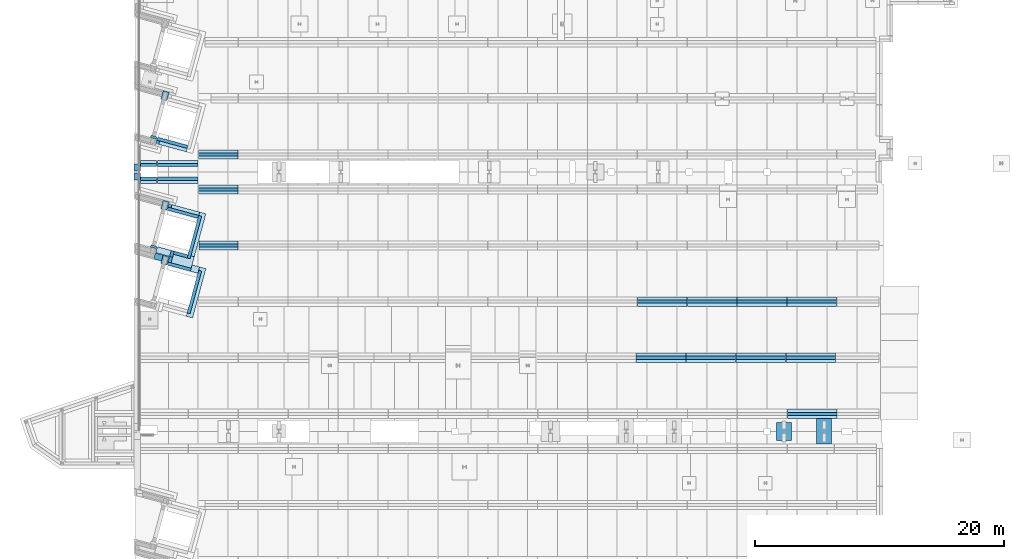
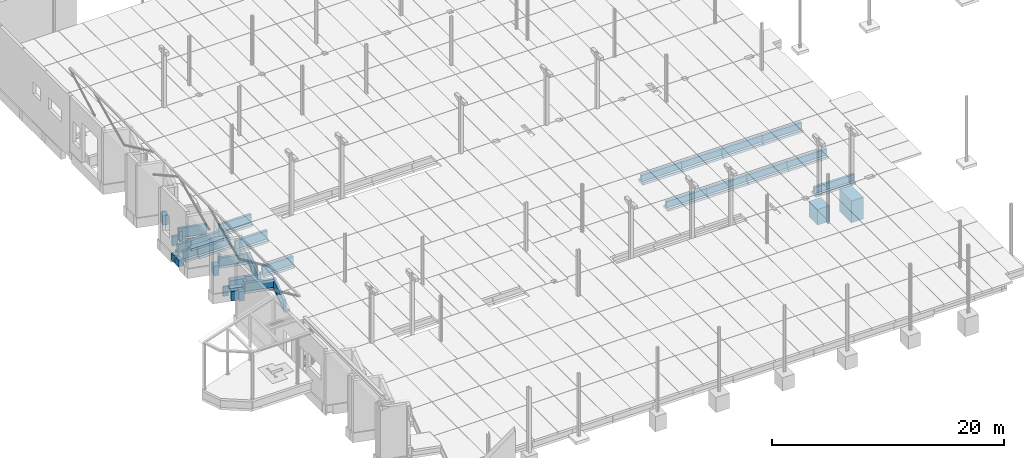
# One storey, part 5 of 59: 59 footings.
"""IFC2X3 building model written with IfcOpenShell, lengths in metres."""

from ifc_helpers import new_model, entity, si_unit, converted_unit, derived_unit, frame, frame_2d, origin, origin_with_axes, place, context, subcontext, project, spatial, polyline, rectangle, extrude, clip, bounded_halfspace, material, element, save


model = new_model("IFC2X3")

# Units and contexts
model_context = context("Model", 3, precision=1e-05, world=origin())
body_context = subcontext(model_context, "Body", "Model", "MODEL_VIEW")
ifc_project = project(units=[si_unit("LENGTHUNIT", "METRE"), si_unit("AREAUNIT", "SQUARE_METRE"), si_unit("VOLUMEUNIT", "CUBIC_METRE"), si_unit("MASSUNIT", "GRAM", prefix="KILO"), converted_unit("PLANEANGLEUNIT", "DEGREE", entity("IfcPlaneAngleMeasure", 0.0174532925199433), si_unit("PLANEANGLEUNIT", "RADIAN"), dimensions=[0, 0, 0, 0, 0, 0, 0]), derived_unit("THERMALTRANSMITTANCEUNIT", [(si_unit("POWERUNIT", "WATT"), 1), (si_unit("THERMODYNAMICTEMPERATUREUNIT", "KELVIN"), -1), (si_unit("LENGTHUNIT", "METRE"), -2)]), derived_unit("VOLUMETRICFLOWRATEUNIT", [(si_unit("LENGTHUNIT", "METRE"), 3), (converted_unit("TIMEUNIT", "hour", entity("IfcTimeMeasure", 3600.0), si_unit("TIMEUNIT", "SECOND"), dimensions=[0, 0, 1, 0, 0, 0, 0]), -1), (si_unit("LENGTHUNIT", "METRE"), -1)])], contexts=[model_context])

# Site, building, storey
site_placement = place(None, origin())
site = spatial("IfcSite", under=ifc_project, at=site_placement, Name="TWP_Speiseverteilzentrum SBW VZ II", CompositionType="ELEMENT")
building_placement = place(site_placement, origin())
building = spatial("IfcBuilding", under=site, at=building_placement, Name="Speiseverteilzentrum SBW VZ II", CompositionType="ELEMENT")
storey_placement = place(building_placement, frame((0.0, 0.0, 1.7307)))
storey = spatial("IfcBuildingStorey", under=building, at=storey_placement, Name="EG_Produktion_FFB", CompositionType="ELEMENT", Elevation=1.7307)

# Footings
ifc_material_1 = material(Name="Stahlbetonfertigteil")
footing_1_placement = place(storey_placement, frame((11.05, 51.18, -1.5), z_axis=(0.0, 0.0, 1.0), x_axis=(-1.0, 0.0, 0.0)))
element("IfcFooting", 1, at=footing_1_placement, inside=storey, material=ifc_material_1, Name="Stahlbetonfertigteilfundament", PredefinedType="STRIP_FOOTING", context=body_context, shape_type="SweptSolid", body=[
    extrude(rectangle(XDim=0.5, YDim=0.25, at=frame_2d((0.25, 0.125), x_axis=(1.0, 0.0))), frame((0.0, 0.0, 0.0), z_axis=(1.0, 0.0, 0.0), x_axis=(0.0, 1.0, 0.0)), (0.0, 0.0, 1.0), 1.29000000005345),
])
ifc_material_2 = material(Name="Stahlbetonfertigteil")
footing_2_placement = place(storey_placement, frame((11.05, 51.18, -1.25), z_axis=(0.0, 0.0, 1.0), x_axis=(-1.0, 0.0, 0.0)))
element("IfcFooting", 2, at=footing_2_placement, inside=storey, material=ifc_material_2, Name="Stahlbetonfertigteilfundament", PredefinedType="STRIP_FOOTING", context=body_context, shape_type="SweptSolid", body=[
    extrude(rectangle(XDim=0.25, YDim=0.78, at=frame_2d((0.125, 0.39), x_axis=(1.0, 0.0))), frame((0.0, 0.0, 0.0), z_axis=(1.0, 0.0, 0.0), x_axis=(0.0, 1.0, 0.0)), (0.0, 0.0, 1.0), 1.29000000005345),
])
ifc_material_3 = material(Name="Stahlbetonfertigteil")
footing_3_placement = place(storey_placement, frame((9.75999999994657, 52.02, -1.25)))
element("IfcFooting", 3, at=footing_3_placement, inside=storey, material=ifc_material_3, Name="Stahlbetonfertigteilfundament", PredefinedType="STRIP_FOOTING", context=body_context, shape_type="SweptSolid", body=[
    extrude(rectangle(XDim=0.25, YDim=0.78, at=frame_2d((0.125, 0.39), x_axis=(1.0, 0.0))), frame((0.0, 0.0, 0.0), z_axis=(1.0, 0.0, 0.0), x_axis=(0.0, 1.0, 0.0)), (0.0, 0.0, 1.0), 1.29000000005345),
])
ifc_material_4 = material(Name="Stahlbetonfertigteil")
footing_4_placement = place(storey_placement, frame((9.75999999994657, 52.02, -1.5)))
element("IfcFooting", 4, at=footing_4_placement, inside=storey, material=ifc_material_4, Name="Stahlbetonfertigteilfundament", PredefinedType="STRIP_FOOTING", context=body_context, shape_type="SweptSolid", body=[
    extrude(rectangle(XDim=0.5, YDim=0.25, at=frame_2d((0.25, 0.125), x_axis=(1.0, 0.0))), frame((0.0, 0.0, 0.0), z_axis=(1.0, 0.0, 0.0), x_axis=(0.0, 1.0, 0.0)), (0.0, 0.0, 1.0), 1.29000000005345),
])
ifc_material_5 = material(Name="Stahlbetonfertigteil")
footing_5_placement = place(storey_placement, frame((61.6199999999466, 32.0750000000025, -1.125)))
element("IfcFooting", 5, at=footing_5_placement, inside=storey, material=ifc_material_5, Name="Stahlbetonfertigteilfundament", PredefinedType="STRIP_FOOTING", context=body_context, shape_type="SweptSolid", body=[
    extrude(rectangle(XDim=0.25, YDim=0.655, at=frame_2d((0.125, 0.3275), x_axis=(1.0, 0.0))), frame((0.0, 0.0, 0.0), z_axis=(1.0, 0.0, 0.0), x_axis=(0.0, 1.0, 0.0)), (0.0, 0.0, 1.0), 3.98),
])
ifc_material_6 = material(Name="Stahlbetonfertigteil")
footing_6_placement = place(storey_placement, frame((49.5999999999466, 41.0750000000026, -1.1)))
element("IfcFooting", 6, at=footing_6_placement, inside=storey, material=ifc_material_6, Name="Stahlbetonfertigteilfundament", PredefinedType="STRIP_FOOTING", context=body_context, shape_type="SweptSolid", body=[
    extrude(rectangle(XDim=0.25, YDim=0.63, at=frame_2d((0.125, 0.315), x_axis=(1.0, 0.0))), frame((0.0, 0.0, 0.0), z_axis=(1.0, 0.0, 0.0), x_axis=(0.0, 1.0, 0.0)), (0.0, 0.0, 1.0), 3.98),
])
ifc_material_7 = material(Name="Stahlbetonfertigteil")
footing_7_placement = place(storey_placement, frame((49.5999999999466, 40.8250000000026, -1.35)))
element("IfcFooting", 7, at=footing_7_placement, inside=storey, material=ifc_material_7, Name="Stahlbetonfertigteilfundament", PredefinedType="STRIP_FOOTING", context=body_context, shape_type="SweptSolid", body=[
    extrude(rectangle(XDim=0.75, YDim=0.25, at=frame_2d((0.375, 0.125), x_axis=(1.0, 0.0))), frame((0.0, 0.0, 0.0), z_axis=(1.0, 0.0, 0.0), x_axis=(0.0, 1.0, 0.0)), (0.0, 0.0, 1.0), 3.98),
])
ifc_material_8 = material(Name="Stahlbetonfertigteil")
footing_8_placement = place(storey_placement, frame((61.5999999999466, 41.0750000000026, -1.1)))
element("IfcFooting", 8, at=footing_8_placement, inside=storey, material=ifc_material_8, Name="Stahlbetonfertigteilfundament", PredefinedType="STRIP_FOOTING", context=body_context, shape_type="SweptSolid", body=[
    extrude(rectangle(XDim=0.25, YDim=0.63, at=frame_2d((0.125, 0.315), x_axis=(1.0, 0.0))), frame((0.0, 0.0, 0.0), z_axis=(1.0, 0.0, 0.0), x_axis=(0.0, 1.0, 0.0)), (0.0, 0.0, 1.0), 3.98),
])
ifc_material_9 = material(Name="Stahlbetonfertigteil")
footing_9_placement = place(storey_placement, frame((53.5999999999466, 41.0750000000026, -1.1)))
element("IfcFooting", 9, at=footing_9_placement, inside=storey, material=ifc_material_9, Name="Stahlbetonfertigteilfundament", PredefinedType="STRIP_FOOTING", context=body_context, shape_type="SweptSolid", body=[
    extrude(rectangle(XDim=0.25, YDim=0.63, at=frame_2d((0.125, 0.315), x_axis=(1.0, 0.0))), frame((0.0, 0.0, 0.0), z_axis=(1.0, 0.0, 0.0), x_axis=(0.0, 1.0, 0.0)), (0.0, 0.0, 1.0), 3.98),
])
ifc_material_10 = material(Name="Stahlbetonfertigteil")
footing_10_placement = place(storey_placement, frame((57.5999999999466, 41.0750000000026, -1.1)))
element("IfcFooting", 10, at=footing_10_placement, inside=storey, material=ifc_material_10, Name="Stahlbetonfertigteilfundament", PredefinedType="STRIP_FOOTING", context=body_context, shape_type="SweptSolid", body=[
    extrude(rectangle(XDim=0.25, YDim=0.63, at=frame_2d((0.125, 0.315), x_axis=(1.0, 0.0))), frame((0.0, 0.0, 0.0), z_axis=(1.0, 0.0, 0.0), x_axis=(0.0, 1.0, 0.0)), (0.0, 0.0, 1.0), 3.98),
])
ifc_material_11 = material(Name="Stahlbetonfertigteil")
footing_11_placement = place(storey_placement, frame((57.5999999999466, 40.8250000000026, -1.35)))
element("IfcFooting", 11, at=footing_11_placement, inside=storey, material=ifc_material_11, Name="Stahlbetonfertigteilfundament", PredefinedType="STRIP_FOOTING", context=body_context, shape_type="SweptSolid", body=[
    extrude(rectangle(XDim=0.75, YDim=0.25, at=frame_2d((0.375, 0.125), x_axis=(1.0, 0.0))), frame((0.0, 0.0, 0.0), z_axis=(1.0, 0.0, 0.0), x_axis=(0.0, 1.0, 0.0)), (0.0, 0.0, 1.0), 3.98),
])
ifc_material_12 = material(Name="Stahlbetonfertigteil")
footing_12_placement = place(storey_placement, frame((53.5999999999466, 40.8250000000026, -1.35)))
element("IfcFooting", 12, at=footing_12_placement, inside=storey, material=ifc_material_12, Name="Stahlbetonfertigteilfundament", PredefinedType="STRIP_FOOTING", context=body_context, shape_type="SweptSolid", body=[
    extrude(rectangle(XDim=0.75, YDim=0.25, at=frame_2d((0.375, 0.125), x_axis=(1.0, 0.0))), frame((0.0, 0.0, 0.0), z_axis=(1.0, 0.0, 0.0), x_axis=(0.0, 1.0, 0.0)), (0.0, 0.0, 1.0), 3.98),
])
ifc_material_13 = material(Name="Stahlbetonfertigteil")
footing_13_placement = place(storey_placement, frame((61.5999999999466, 40.8250000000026, -1.35)))
element("IfcFooting", 13, at=footing_13_placement, inside=storey, material=ifc_material_13, Name="Stahlbetonfertigteilfundament", PredefinedType="STRIP_FOOTING", context=body_context, shape_type="SweptSolid", body=[
    extrude(rectangle(XDim=0.75, YDim=0.25, at=frame_2d((0.375, 0.125), x_axis=(1.0, 0.0))), frame((0.0, 0.0, 0.0), z_axis=(1.0, 0.0, 0.0), x_axis=(0.0, 1.0, 0.0)), (0.0, 0.0, 1.0), 3.98),
])
ifc_material_14 = material(Name="Stahlbeton")
footing_14_placement = place(storey_placement, frame((60.7600000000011, 30.0751031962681, -2.92)))
element("IfcFooting", 14, at=footing_14_placement, inside=storey, material=ifc_material_14, Name="Stb.-Einzelfundament", ObjectType="COLUMN_FOUNDATION", PredefinedType="USERDEFINED", context=body_context, shape_type="SweptSolid", body=[
    extrude(rectangle(XDim=1.2, YDim=1.45, at=frame_2d((0.6, 0.725), x_axis=(1.0, 0.0))), origin_with_axes(), (0.0, 0.0, 1.0), 1.65),
])
ifc_material_15 = material(Name="Stahlbetonfertigteil")
footing_15_placement = place(storey_placement, frame((61.6199999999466, 31.8250000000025, -1.375)))
element("IfcFooting", 15, at=footing_15_placement, inside=storey, material=ifc_material_15, Name="Stahlbetonfertigteilfundament", PredefinedType="STRIP_FOOTING", context=body_context, shape_type="SweptSolid", body=[
    extrude(rectangle(XDim=0.75, YDim=0.25, at=frame_2d((0.375, 0.125), x_axis=(1.0, 0.0))), frame((0.0, 0.0, 0.0), z_axis=(1.0, 0.0, 0.0), x_axis=(0.0, 1.0, 0.0)), (0.0, 0.0, 1.0), 3.98),
])
ifc_material_16 = material(Name="Stahlbeton")
footing_16_placement = place(storey_placement, frame((63.9750000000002, 29.7751031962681, -3.62)))
element("IfcFooting", 16, at=footing_16_placement, inside=storey, material=ifc_material_16, Name="Stb.-Einzelfundament", ObjectType="COLUMN_FOUNDATION", PredefinedType="USERDEFINED", context=body_context, shape_type="Clipping", body=[
    clip(extrude(rectangle(XDim=1.2, YDim=2.05, at=frame_2d((0.6, 1.025), x_axis=(1.0, 0.0))), origin_with_axes(), (0.0, 0.0, 1.0), 2.3), bounded_halfspace(frame((0.6, 2.04994840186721, 2.245), z_axis=(-4.736951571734e-17, 5.5082825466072e-13, -1.0), x_axis=(0.0, -1.0, -1.10165650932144e-12)), True, origin_with_axes(), polyline([(0.0, 2.05), (0.0, 2.04989680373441), (1.2, 2.04989680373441), (1.2, 2.05), (0.0, 2.05)]))),
])
ifc_material_17 = material(Name="Stahlbetonfertigteil")
footing_17_placement = place(storey_placement, frame((49.4997040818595, 36.5750000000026, -1.1)))
element("IfcFooting", 17, at=footing_17_placement, inside=storey, material=ifc_material_17, Name="Stahlbetonfertigteilfundament", PredefinedType="STRIP_FOOTING", context=body_context, shape_type="SweptSolid", body=[
    extrude(rectangle(XDim=0.25, YDim=0.63, at=frame_2d((0.125, 0.315), x_axis=(1.0, 0.0))), frame((0.0, 0.0, 0.0), z_axis=(1.0, 0.0, 0.0), x_axis=(0.0, 1.0, 0.0)), (0.0, 0.0, 1.0), 3.98),
])
ifc_material_18 = material(Name="Stahlbetonfertigteil")
footing_18_placement = place(storey_placement, frame((49.4997040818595, 36.3250000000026, -1.35)))
element("IfcFooting", 18, at=footing_18_placement, inside=storey, material=ifc_material_18, Name="Stahlbetonfertigteilfundament", PredefinedType="STRIP_FOOTING", context=body_context, shape_type="SweptSolid", body=[
    extrude(rectangle(XDim=0.75, YDim=0.25, at=frame_2d((0.375, 0.125), x_axis=(1.0, 0.0))), frame((0.0, 0.0, 0.0), z_axis=(1.0, 0.0, 0.0), x_axis=(0.0, 1.0, 0.0)), (0.0, 0.0, 1.0), 3.98),
])
ifc_material_19 = material(Name="Stahlbetonfertigteil")
footing_19_placement = place(storey_placement, frame((53.4997040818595, 36.5750000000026, -1.1)))
element("IfcFooting", 19, at=footing_19_placement, inside=storey, material=ifc_material_19, Name="Stahlbetonfertigteilfundament", PredefinedType="STRIP_FOOTING", context=body_context, shape_type="SweptSolid", body=[
    extrude(rectangle(XDim=0.25, YDim=0.63, at=frame_2d((0.125, 0.315), x_axis=(1.0, 0.0))), frame((0.0, 0.0, 0.0), z_axis=(1.0, 0.0, 0.0), x_axis=(0.0, 1.0, 0.0)), (0.0, 0.0, 1.0), 3.98),
])
ifc_material_20 = material(Name="Stahlbetonfertigteil")
footing_20_placement = place(storey_placement, frame((57.4997040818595, 36.5750000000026, -1.1)))
element("IfcFooting", 20, at=footing_20_placement, inside=storey, material=ifc_material_20, Name="Stahlbetonfertigteilfundament", PredefinedType="STRIP_FOOTING", context=body_context, shape_type="SweptSolid", body=[
    extrude(rectangle(XDim=0.25, YDim=0.63, at=frame_2d((0.125, 0.315), x_axis=(1.0, 0.0))), frame((0.0, 0.0, 0.0), z_axis=(1.0, 0.0, 0.0), x_axis=(0.0, 1.0, 0.0)), (0.0, 0.0, 1.0), 3.98),
])
ifc_material_21 = material(Name="Stahlbetonfertigteil")
footing_21_placement = place(storey_placement, frame((61.4997040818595, 36.5750000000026, -1.1)))
element("IfcFooting", 21, at=footing_21_placement, inside=storey, material=ifc_material_21, Name="Stahlbetonfertigteilfundament", PredefinedType="STRIP_FOOTING", context=body_context, shape_type="SweptSolid", body=[
    extrude(rectangle(XDim=0.25, YDim=0.63, at=frame_2d((0.125, 0.315), x_axis=(1.0, 0.0))), frame((0.0, 0.0, 0.0), z_axis=(1.0, 0.0, 0.0), x_axis=(0.0, 1.0, 0.0)), (0.0, 0.0, 1.0), 3.98),
])
ifc_material_22 = material(Name="Stahlbetonfertigteil")
footing_22_placement = place(storey_placement, frame((61.4997040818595, 36.3250000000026, -1.35)))
element("IfcFooting", 22, at=footing_22_placement, inside=storey, material=ifc_material_22, Name="Stahlbetonfertigteilfundament", PredefinedType="STRIP_FOOTING", context=body_context, shape_type="SweptSolid", body=[
    extrude(rectangle(XDim=0.75, YDim=0.25, at=frame_2d((0.375, 0.125), x_axis=(1.0, 0.0))), frame((0.0, 0.0, 0.0), z_axis=(1.0, 0.0, 0.0), x_axis=(0.0, 1.0, 0.0)), (0.0, 0.0, 1.0), 3.98),
])
ifc_material_23 = material(Name="Stahlbetonfertigteil")
footing_23_placement = place(storey_placement, frame((57.4997040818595, 36.3250000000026, -1.35)))
element("IfcFooting", 23, at=footing_23_placement, inside=storey, material=ifc_material_23, Name="Stahlbetonfertigteilfundament", PredefinedType="STRIP_FOOTING", context=body_context, shape_type="SweptSolid", body=[
    extrude(rectangle(XDim=0.75, YDim=0.25, at=frame_2d((0.375, 0.125), x_axis=(1.0, 0.0))), frame((0.0, 0.0, 0.0), z_axis=(1.0, 0.0, 0.0), x_axis=(0.0, 1.0, 0.0)), (0.0, 0.0, 1.0), 3.98),
])
ifc_material_24 = material(Name="Stahlbetonfertigteil")
footing_24_placement = place(storey_placement, frame((53.4997040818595, 36.3250000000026, -1.35)))
element("IfcFooting", 24, at=footing_24_placement, inside=storey, material=ifc_material_24, Name="Stahlbetonfertigteilfundament", PredefinedType="STRIP_FOOTING", context=body_context, shape_type="SweptSolid", body=[
    extrude(rectangle(XDim=0.75, YDim=0.25, at=frame_2d((0.375, 0.125), x_axis=(1.0, 0.0))), frame((0.0, 0.0, 0.0), z_axis=(1.0, 0.0, 0.0), x_axis=(0.0, 1.0, 0.0)), (0.0, 0.0, 1.0), 3.98),
])
ifc_material_25 = material(Name="Stahlbetonfertigteil")
footing_25_placement = place(storey_placement, frame((14.3799999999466, 51.18, -1.35), z_axis=(0.0, 0.0, 1.0), x_axis=(-1.0, 0.0, 0.0)))
element("IfcFooting", 25, at=footing_25_placement, inside=storey, material=ifc_material_25, Name="Stahlbetonfertigteilfundament", PredefinedType="STRIP_FOOTING", context=body_context, shape_type="SweptSolid", body=[
    extrude(rectangle(XDim=0.25, YDim=0.88, at=frame_2d((0.125, 0.44), x_axis=(1.0, 0.0))), frame((0.0, 0.0, 0.0), z_axis=(1.0, 0.0, 0.0), x_axis=(0.0, 1.0, 0.0)), (0.0, 0.0, 1.0), 3.26000773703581),
])
ifc_material_26 = material(Name="Stahlbetonfertigteil")
footing_26_placement = place(storey_placement, frame((14.3799999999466, 51.18, -1.6), z_axis=(0.0, 0.0, 1.0), x_axis=(-1.0, 0.0, 0.0)))
element("IfcFooting", 26, at=footing_26_placement, inside=storey, material=ifc_material_26, Name="Stahlbetonfertigteilfundament", PredefinedType="STRIP_FOOTING", context=body_context, shape_type="SweptSolid", body=[
    extrude(rectangle(XDim=0.5, YDim=0.25, at=frame_2d((0.25, 0.125), x_axis=(1.0, 0.0))), frame((0.0, 0.0, 0.0), z_axis=(1.0, 0.0, 0.0), x_axis=(0.0, 1.0, 0.0)), (0.0, 0.0, 1.0), 3.26000773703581),
])
ifc_material_27 = material(Name="Stahlbetonfertigteil")
footing_27_placement = place(storey_placement, frame((11.1199922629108, 52.02, -1.35)))
element("IfcFooting", 27, at=footing_27_placement, inside=storey, material=ifc_material_27, Name="Stahlbetonfertigteilfundament", PredefinedType="STRIP_FOOTING", context=body_context, shape_type="SweptSolid", body=[
    extrude(rectangle(XDim=0.25, YDim=0.88, at=frame_2d((0.125, 0.44), x_axis=(1.0, 0.0))), frame((0.0, 0.0, 0.0), z_axis=(1.0, 0.0, 0.0), x_axis=(0.0, 1.0, 0.0)), (0.0, 0.0, 1.0), 3.26000773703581),
])
ifc_material_28 = material(Name="Stahlbetonfertigteil")
footing_28_placement = place(storey_placement, frame((11.1199922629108, 52.02, -1.6)))
element("IfcFooting", 28, at=footing_28_placement, inside=storey, material=ifc_material_28, Name="Stahlbetonfertigteilfundament", PredefinedType="STRIP_FOOTING", context=body_context, shape_type="SweptSolid", body=[
    extrude(rectangle(XDim=0.5, YDim=0.25, at=frame_2d((0.25, 0.125), x_axis=(1.0, 0.0))), frame((0.0, 0.0, 0.0), z_axis=(1.0, 0.0, 0.0), x_axis=(0.0, 1.0, 0.0)), (0.0, 0.0, 1.0), 3.26000773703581),
])
ifc_material_29 = material(Name="Stahlbetonfertigteil")
footing_29_placement = place(storey_placement, frame((14.3999999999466, 52.8750000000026, -1.35)))
element("IfcFooting", 29, at=footing_29_placement, inside=storey, material=ifc_material_29, Name="Stahlbetonfertigteilfundament", PredefinedType="STRIP_FOOTING", context=body_context, shape_type="SweptSolid", body=[
    extrude(rectangle(XDim=0.25, YDim=0.88, at=frame_2d((0.125, 0.44), x_axis=(1.0, 0.0))), frame((0.0, 0.0, 0.0), z_axis=(1.0, 0.0, 0.0), x_axis=(0.0, 1.0, 0.0)), (0.0, 0.0, 1.0), 3.18000000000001),
])
ifc_material_30 = material(Name="Stahlbetonfertigteil")
footing_30_placement = place(storey_placement, frame((14.3999999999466, 49.8250000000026, -1.6)))
element("IfcFooting", 30, at=footing_30_placement, inside=storey, material=ifc_material_30, Name="Stahlbetonfertigteilfundament", PredefinedType="STRIP_FOOTING", context=body_context, shape_type="SweptSolid", body=[
    extrude(rectangle(XDim=0.75, YDim=0.25, at=frame_2d((0.375, 0.125), x_axis=(1.0, 0.0))), frame((0.0, 0.0, 0.0), z_axis=(1.0, 0.0, 0.0), x_axis=(0.0, 1.0, 0.0)), (0.0, 0.0, 1.0), 3.18000000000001),
])
ifc_material_31 = material(Name="Stahlbetonfertigteil")
footing_31_placement = place(storey_placement, frame((14.3999999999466, 50.0750000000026, -1.35)))
element("IfcFooting", 31, at=footing_31_placement, inside=storey, material=ifc_material_31, Name="Stahlbetonfertigteilfundament", PredefinedType="STRIP_FOOTING", context=body_context, shape_type="SweptSolid", body=[
    extrude(rectangle(XDim=0.25, YDim=0.88, at=frame_2d((0.125, 0.44), x_axis=(1.0, 0.0))), frame((0.0, 0.0, 0.0), z_axis=(1.0, 0.0, 0.0), x_axis=(0.0, 1.0, 0.0)), (0.0, 0.0, 1.0), 3.18000000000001),
])
ifc_material_32 = material(Name="Stahlbeton")
footing_32_placement = place(storey_placement, frame((11.5679965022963, 58.1185082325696, -2.25), z_axis=(0.0, 0.0, 1.0), x_axis=(-0.261013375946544, -0.965335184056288, 0.0)))
element("IfcFooting", 32, at=footing_32_placement, inside=storey, material=ifc_material_32, Name="Stb.-Streifenfundament", PredefinedType="STRIP_FOOTING", context=body_context, shape_type="SweptSolid", body=[
    extrude(rectangle(XDim=0.499999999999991, YDim=1.0, at=frame_2d((0.249999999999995, 0.5), x_axis=(1.0, 0.0))), frame((0.0, 0.0, 0.0), z_axis=(1.0, 0.0, 0.0), x_axis=(0.0, 1.0, 0.0)), (0.0, 0.0, 1.0), 0.699999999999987),
])
ifc_material_33 = material(Name="Stahlbetonfertigteil")
footing_33_placement = place(storey_placement, frame((14.3999999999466, 52.6250000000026, -1.6)))
element("IfcFooting", 33, at=footing_33_placement, inside=storey, material=ifc_material_33, Name="Stahlbetonfertigteilfundament", PredefinedType="STRIP_FOOTING", context=body_context, shape_type="SweptSolid", body=[
    extrude(rectangle(XDim=0.75, YDim=0.25, at=frame_2d((0.375, 0.125), x_axis=(1.0, 0.0))), frame((0.0, 0.0, 0.0), z_axis=(1.0, 0.0, 0.0), x_axis=(0.0, 1.0, 0.0)), (0.0, 0.0, 1.0), 3.18000000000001),
])
ifc_material_34 = material(Name="Stahlbeton")
footing_34_placement = place(storey_placement, frame((10.6024305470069, 54.5474468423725, -2.25), z_axis=(0.0, 0.0, 1.0), x_axis=(-0.261013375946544, -0.965335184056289, 0.0)))
element("IfcFooting", 34, at=footing_34_placement, inside=storey, material=ifc_material_34, Name="Stb.-Streifenfundament", PredefinedType="STRIP_FOOTING", context=body_context, shape_type="SweptSolid", body=[
    extrude(rectangle(XDim=0.5, YDim=1.0, at=frame_2d((0.25, 0.5), x_axis=(1.0, 0.0))), frame((0.0, 0.0, 0.0), z_axis=(1.0, 0.0, 0.0), x_axis=(0.0, 1.0, 0.0)), (0.0, 0.0, 1.0), 0.200000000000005),
])
ifc_material_35 = material(Name="Stahlbeton")
footing_35_placement = place(storey_placement, frame((9.73999999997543, 50.9501094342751, -1.967), z_axis=(0.0, 0.0, 1.0), x_axis=(0.0, 1.0, 0.0)))
element("IfcFooting", 35, at=footing_35_placement, inside=storey, material=ifc_material_35, Name="Stb.-Streifenfundament", PredefinedType="STRIP_FOOTING", context=body_context, shape_type="SweptSolid", body=[
    extrude(rectangle(XDim=0.5, YDim=0.717, at=frame_2d((0.25, 0.3585), x_axis=(1.0, 0.0))), frame((0.0, 0.0, 0.0), z_axis=(1.0, 0.0, 0.0), x_axis=(0.0, 1.0, 0.0)), (0.0, 0.0, 1.0), 0.569643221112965),
])
ifc_material_36 = material(Name="Stahlbeton")
footing_36_placement = place(storey_placement, frame((9.73999999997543, 51.6847526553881, -1.967), z_axis=(0.0, 0.0, 1.0), x_axis=(0.0, 1.0, 0.0)))
element("IfcFooting", 36, at=footing_36_placement, inside=storey, material=ifc_material_36, Name="Stb.-Streifenfundament", PredefinedType="STRIP_FOOTING", context=body_context, shape_type="SweptSolid", body=[
    extrude(rectangle(XDim=0.5, YDim=0.717, at=frame_2d((0.25, 0.3585), x_axis=(1.0, 0.0))), frame((0.0, 0.0, 0.0), z_axis=(1.0, 0.0, 0.0), x_axis=(0.0, 1.0, 0.0)), (0.0, 0.0, 1.0), 0.565356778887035),
])
ifc_material_37 = material(Name="Stahlbeton")
footing_37_placement = place(storey_placement, frame((11.5679965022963, 44.9347002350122, -2.25), z_axis=(0.0, 0.0, 1.0), x_axis=(-0.965335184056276, 0.26101337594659, 0.0)))
element("IfcFooting", 37, at=footing_37_placement, inside=storey, material=ifc_material_37, Name="Stb.-Streifenfundament", PredefinedType="STRIP_FOOTING", context=body_context, shape_type="SweptSolid", body=[
    extrude(rectangle(XDim=0.500000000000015, YDim=1.0, at=frame_2d((0.250000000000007, 0.5), x_axis=(1.0, 0.0))), frame((0.0, 0.0, 0.0), z_axis=(1.0, 0.0, 0.0), x_axis=(0.0, 1.0, 0.0)), (0.0, 0.0, 1.0), 0.648537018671),
])
ifc_material_38 = material(Name="Stahlbeton")
footing_38_placement = place(storey_placement, frame((11.5679965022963, 44.9347002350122, -2.25), z_axis=(0.0, 0.0, 1.0), x_axis=(-0.261013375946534, -0.965335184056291, 0.0)))
element("IfcFooting", 38, at=footing_38_placement, inside=storey, material=ifc_material_38, Name="Stb.-Streifenfundament", PredefinedType="STRIP_FOOTING", context=body_context, shape_type="SweptSolid", body=[
    extrude(rectangle(XDim=0.499999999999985, YDim=1.0, at=frame_2d((0.249999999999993, 0.5), x_axis=(1.0, 0.0))), frame((0.0, 0.0, 0.0), z_axis=(1.0, 0.0, 0.0), x_axis=(0.0, 1.0, 0.0)), (0.0, 0.0, 1.0), 0.700000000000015),
])
ifc_material_39 = material(Name="Stahlbeton")
footing_39_placement = place(storey_placement, frame((10.6024305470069, 45.7639383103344, -2.25), z_axis=(0.0, 0.0, 1.0), x_axis=(-0.261013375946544, -0.965335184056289, 0.0)))
element("IfcFooting", 39, at=footing_39_placement, inside=storey, material=ifc_material_39, Name="Stb.-Streifenfundament", PredefinedType="STRIP_FOOTING", context=body_context, shape_type="SweptSolid", body=[
    extrude(rectangle(XDim=0.499999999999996, YDim=1.0, at=frame_2d((0.249999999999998, 0.5), x_axis=(1.0, 0.0))), frame((0.0, 0.0, 0.0), z_axis=(1.0, 0.0, 0.0), x_axis=(0.0, 1.0, 0.0)), (0.0, 0.0, 1.0), 0.200000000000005),
])
ifc_material_40 = material(Name="Stahlbetonfertigteil")
footing_40_placement = place(storey_placement, frame((14.4588369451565, 45.5750000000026, -1.3)))
element("IfcFooting", 40, at=footing_40_placement, inside=storey, material=ifc_material_40, Name="Stahlbetonfertigteilfundament", PredefinedType="STRIP_FOOTING", context=body_context, shape_type="SweptSolid", body=[
    extrude(rectangle(XDim=0.25, YDim=0.83, at=frame_2d((0.125, 0.415), x_axis=(1.0, 0.0))), frame((0.0, 0.0, 0.0), z_axis=(1.0, 0.0, 0.0), x_axis=(0.0, 1.0, 0.0)), (0.0, 0.0, 1.0), 3.12116305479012),
])
ifc_material_41 = material(Name="Stahlbetonfertigteil")
footing_41_placement = place(storey_placement, frame((14.4588369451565, 45.3250000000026, -1.55)))
element("IfcFooting", 41, at=footing_41_placement, inside=storey, material=ifc_material_41, Name="Stahlbetonfertigteilfundament", PredefinedType="STRIP_FOOTING", context=body_context, shape_type="SweptSolid", body=[
    extrude(rectangle(XDim=0.75, YDim=0.25, at=frame_2d((0.375, 0.125), x_axis=(1.0, 0.0))), frame((0.0, 0.0, 0.0), z_axis=(1.0, 0.0, 0.0), x_axis=(0.0, 1.0, 0.0)), (0.0, 0.0, 1.0), 3.12116305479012),
])
ifc_material_42 = material(Name="Stahlbeton")
footing_42_placement = place(storey_placement, frame((11.5679965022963, 49.3349997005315, -2.25), z_axis=(0.0, 0.0, 1.0), x_axis=(-0.261013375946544, -0.965335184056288, 0.0)))
element("IfcFooting", 42, at=footing_42_placement, inside=storey, material=ifc_material_42, Name="Stb.-Streifenfundament", PredefinedType="STRIP_FOOTING", context=body_context, shape_type="SweptSolid", body=[
    extrude(rectangle(XDim=0.499999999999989, YDim=1.0, at=frame_2d((0.249999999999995, 0.5), x_axis=(1.0, 0.0))), frame((0.0, 0.0, 0.0), z_axis=(1.0, 0.0, 0.0), x_axis=(0.0, 1.0, 0.0)), (0.0, 0.0, 1.0), 0.699999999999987),
])
ifc_material_43 = material(Name="Stahlbeton")
footing_43_placement = place(storey_placement, frame((11.0435845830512, 54.1484692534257, -1.45), z_axis=(0.0, 0.0, 1.0), x_axis=(0.965335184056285, -0.261013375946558, 0.0)))
element("IfcFooting", 43, at=footing_43_placement, inside=storey, material=ifc_material_43, Name="Stb.-Fundament", PredefinedType="STRIP_FOOTING", context=body_context, shape_type="SweptSolid", body=[
    extrude(rectangle(XDim=0.249999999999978, YDim=0.98, at=frame_2d((0.124999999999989, 0.49), x_axis=(1.0, 0.0))), frame((0.0, 0.0, 0.0), z_axis=(1.0, 0.0, 0.0), x_axis=(0.0, 1.0, 0.0)), (0.0, 0.0, 1.0), 2.53999999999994),
])
ifc_material_44 = material(Name="Stahlbeton")
footing_44_placement = place(storey_placement, frame((13.5607892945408, 53.7268290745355, -1.7), z_axis=(0.0, 0.0, 1.0), x_axis=(-0.965335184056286, 0.261013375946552, 0.0)))
element("IfcFooting", 44, at=footing_44_placement, inside=storey, material=ifc_material_44, Name="Stb.-Fundament", PredefinedType="STRIP_FOOTING", context=body_context, shape_type="SweptSolid", body=[
    extrude(rectangle(XDim=0.525000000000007, YDim=0.25, at=frame_2d((0.262500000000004, 0.125), x_axis=(1.0, 0.0))), frame((0.0, 0.0, 0.0), z_axis=(1.0, 0.0, 0.0), x_axis=(0.0, 1.0, 0.0)), (0.0, 0.0, 1.0), 2.53999999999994),
])
ifc_material_45 = material(Name="Stahlbeton")
footing_45_placement = place(storey_placement, frame((11.1648522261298, 53.6391617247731, -1.45), z_axis=(0.0, 0.0, 1.0), x_axis=(0.261013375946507, 0.965335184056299, 0.0)))
element("IfcFooting", 45, at=footing_45_placement, inside=storey, material=ifc_material_45, Name="Stb.-Fundament", PredefinedType="STRIP_FOOTING", context=body_context, shape_type="SweptSolid", body=[
    extrude(rectangle(XDim=0.249999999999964, YDim=0.98, at=frame_2d((0.124999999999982, 0.49), x_axis=(1.0, 0.0))), frame((0.0, 0.0, 0.0), z_axis=(1.0, 0.0, 0.0), x_axis=(0.0, 1.0, 0.0)), (0.0, 0.0, 1.0), 0.460000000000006),
])
ifc_material_46 = material(Name="Stahlbeton")
footing_46_placement = place(storey_placement, frame((12.2087221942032, 48.716315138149, -1.32), z_axis=(0.0, 0.0, 1.0), x_axis=(0.261013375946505, 0.965335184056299, 0.0)))
element("IfcFooting", 46, at=footing_46_placement, inside=storey, material=ifc_material_46, Name="Stb.-Fundament", PredefinedType="STRIP_FOOTING", context=body_context, shape_type="SweptSolid", body=[
    extrude(rectangle(XDim=0.249999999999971, YDim=0.85, at=frame_2d((0.124999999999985, 0.425), x_axis=(1.0, 0.0))), frame((0.0, 0.0, 0.0), z_axis=(1.0, 0.0, 0.0), x_axis=(0.0, 1.0, 0.0)), (0.0, 0.0, 1.0), 0.459999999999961),
])
ifc_material_47 = material(Name="Stahlbeton")
footing_47_placement = place(storey_placement, frame((14.4193397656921, 48.1185945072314, -1.32), z_axis=(0.0, 0.0, 1.0), x_axis=(-0.965335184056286, 0.261013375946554, 0.0)))
element("IfcFooting", 47, at=footing_47_placement, inside=storey, material=ifc_material_47, Name="Stb.-Fundament", PredefinedType="STRIP_FOOTING", context=body_context, shape_type="SweptSolid", body=[
    extrude(rectangle(XDim=0.249999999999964, YDim=0.85, at=frame_2d((0.124999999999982, 0.425), x_axis=(1.0, 0.0))), frame((0.0, 0.0, 0.0), z_axis=(1.0, 0.0, 0.0), x_axis=(0.0, 1.0, 0.0)), (0.0, 0.0, 1.0), 2.54),
])
ifc_material_48 = material(Name="Stahlbeton")
footing_48_placement = place(storey_placement, frame((11.9021350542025, 48.5402346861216, -1.57), z_axis=(0.0, 0.0, 1.0), x_axis=(0.965335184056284, -0.26101337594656, 0.0)))
element("IfcFooting", 48, at=footing_48_placement, inside=storey, material=ifc_material_48, Name="Stb.-Fundament", PredefinedType="STRIP_FOOTING", context=body_context, shape_type="SweptSolid", body=[
    extrude(rectangle(XDim=0.525, YDim=0.25, at=frame_2d((0.2625, 0.125), x_axis=(1.0, 0.0))), frame((0.0, 0.0, 0.0), z_axis=(1.0, 0.0, 0.0), x_axis=(0.0, 1.0, 0.0)), (0.0, 0.0, 1.0), 2.53999999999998),
])
ifc_material_49 = material(Name="Stahlbeton")
footing_49_placement = place(storey_placement, frame((13.7368697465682, 40.2364339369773, -1.32), z_axis=(0.0, 0.0, 1.0), x_axis=(0.261013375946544, 0.965335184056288, 0.0)))
element("IfcFooting", 49, at=footing_49_placement, inside=storey, material=ifc_material_49, Name="Stb.-Fundament", PredefinedType="STRIP_FOOTING", context=body_context, shape_type="SweptSolid", body=[
    extrude(rectangle(XDim=0.249999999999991, YDim=0.85, at=frame_2d((0.124999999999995, 0.425), x_axis=(1.0, 0.0))), frame((0.0, 0.0, 0.0), z_axis=(1.0, 0.0, 0.0), x_axis=(0.0, 1.0, 0.0)), (0.0, 0.0, 1.0), 3.53929683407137),
])
ifc_material_50 = material(Name="Stahlbeton")
footing_50_placement = place(storey_placement, frame((14.4911184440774, 43.9837622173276, -1.57), z_axis=(0.0, 0.0, 1.0), x_axis=(-0.26101337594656, -0.965335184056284, 0.0)))
element("IfcFooting", 50, at=footing_50_placement, inside=storey, material=ifc_material_50, Name="Stb.-Fundament", PredefinedType="STRIP_FOOTING", context=body_context, shape_type="SweptSolid", body=[
    extrude(rectangle(XDim=0.525000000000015, YDim=0.25, at=frame_2d((0.262500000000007, 0.125), x_axis=(1.0, 0.0))), frame((0.0, 0.0, 0.0), z_axis=(1.0, 0.0, 0.0), x_axis=(0.0, 1.0, 0.0)), (0.0, 0.0, 1.0), 4.0892968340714),
])
ifc_material_51 = material(Name="Stahlbeton")
footing_51_placement = place(storey_placement, frame((14.4911184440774, 48.3840616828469, -1.57), z_axis=(0.0, 0.0, 1.0), x_axis=(-0.26101337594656, -0.965335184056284, 0.0)))
element("IfcFooting", 51, at=footing_51_placement, inside=storey, material=ifc_material_51, Name="Stb.-Fundament", PredefinedType="STRIP_FOOTING", context=body_context, shape_type="SweptSolid", body=[
    extrude(rectangle(XDim=0.525000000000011, YDim=0.25, at=frame_2d((0.262500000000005, 0.125), x_axis=(1.0, 0.0))), frame((0.0, 0.0, 0.0), z_axis=(1.0, 0.0, 0.0), x_axis=(0.0, 1.0, 0.0)), (0.0, 0.0, 1.0), 3.5642968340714),
])
ifc_material_52 = material(Name="Stahlbeton")
footing_52_placement = place(storey_placement, frame((13.7521641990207, 43.639712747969, -1.57), z_axis=(0.0, 0.0, 1.0), x_axis=(0.965335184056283, -0.261013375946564, 0.0)))
element("IfcFooting", 52, at=footing_52_placement, inside=storey, material=ifc_material_52, Name="Stb.-Fundament", PredefinedType="STRIP_FOOTING", context=body_context, shape_type="SweptSolid", body=[
    extrude(rectangle(XDim=0.524999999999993, YDim=0.25, at=frame_2d((0.262499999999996, 0.125), x_axis=(1.0, 0.0))), frame((0.0, 0.0, 0.0), z_axis=(1.0, 0.0, 0.0), x_axis=(0.0, 1.0, 0.0)), (0.0, 0.0, 1.0), 0.623537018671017),
])
ifc_material_53 = material(Name="Stahlbeton")
footing_53_placement = place(storey_placement, frame((13.7368697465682, 44.6367334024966, -1.32), z_axis=(0.0, 0.0, 1.0), x_axis=(0.261013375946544, 0.965335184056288, 0.0)))
element("IfcFooting", 53, at=footing_53_placement, inside=storey, material=ifc_material_53, Name="Stb.-Fundament", PredefinedType="STRIP_FOOTING", context=body_context, shape_type="SweptSolid", body=[
    extrude(rectangle(XDim=0.249999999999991, YDim=0.85, at=frame_2d((0.124999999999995, 0.425), x_axis=(1.0, 0.0))), frame((0.0, 0.0, 0.0), z_axis=(1.0, 0.0, 0.0), x_axis=(0.0, 1.0, 0.0)), (0.0, 0.0, 1.0), 3.53929683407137),
])
ifc_material_54 = material(Name="Stahlbeton")
footing_54_placement = place(storey_placement, frame((12.2087221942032, 44.3160156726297, -1.32), z_axis=(0.0, 0.0, 1.0), x_axis=(0.261013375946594, 0.965335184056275, 0.0)))
element("IfcFooting", 54, at=footing_54_placement, inside=storey, material=ifc_material_54, Name="Stb.-Fundament", PredefinedType="STRIP_FOOTING", context=body_context, shape_type="SweptSolid", body=[
    extrude(rectangle(XDim=0.249999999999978, YDim=0.85, at=frame_2d((0.124999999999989, 0.425), x_axis=(1.0, 0.0))), frame((0.0, 0.0, 0.0), z_axis=(1.0, 0.0, 0.0), x_axis=(0.0, 1.0, 0.0)), (0.0, 0.0, 1.0), 0.459999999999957),
])
ifc_material_55 = material(Name="Stahlbeton")
footing_55_placement = place(storey_placement, frame((10.9787313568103, 45.1251067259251, -1.32), z_axis=(0.0, 0.0, 1.0), x_axis=(0.965335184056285, -0.261013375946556, 0.0)))
element("IfcFooting", 55, at=footing_55_placement, inside=storey, material=ifc_material_55, Name="Stb.-Fundament", PredefinedType="STRIP_FOOTING", context=body_context, shape_type="SweptSolid", body=[
    extrude(rectangle(XDim=0.498467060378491, YDim=0.85, at=frame_2d((0.249233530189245, 0.425), x_axis=(1.0, 0.0))), frame((0.0, 0.0, 0.0), z_axis=(1.0, 0.0, 0.0), x_axis=(0.0, 1.0, 0.0)), (0.0, 0.0, 1.0), 1.39853701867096),
])
ifc_material_56 = material(Name="Stahlbeton")
footing_56_placement = place(storey_placement, frame((14.4193397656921, 43.7182950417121, -1.32), z_axis=(0.0, 0.0, 1.0), x_axis=(-0.965335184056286, 0.261013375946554, 0.0)))
element("IfcFooting", 56, at=footing_56_placement, inside=storey, material=ifc_material_56, Name="Stb.-Fundament", PredefinedType="STRIP_FOOTING", context=body_context, shape_type="SweptSolid", body=[
    extrude(rectangle(XDim=0.249999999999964, YDim=0.85, at=frame_2d((0.124999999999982, 0.425), x_axis=(1.0, 0.0))), frame((0.0, 0.0, 0.0), z_axis=(1.0, 0.0, 0.0), x_axis=(0.0, 1.0, 0.0)), (0.0, 0.0, 1.0), 2.54),
])
ifc_material_57 = material(Name="Stahlbeton")
footing_57_placement = place(storey_placement, frame((12.3936415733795, 44.999923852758, -1.32), z_axis=(0.0, 0.0, 1.0), x_axis=(0.965335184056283, -0.261013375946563, 0.0)))
element("IfcFooting", 57, at=footing_57_placement, inside=storey, material=ifc_material_57, Name="Stb.-Fundament", PredefinedType="STRIP_FOOTING", context=body_context, shape_type="SweptSolid", body=[
    extrude(rectangle(XDim=0.249999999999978, YDim=0.85, at=frame_2d((0.124999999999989, 0.425), x_axis=(1.0, 0.0))), frame((0.0, 0.0, 0.0), z_axis=(1.0, 0.0, 0.0), x_axis=(0.0, 1.0, 0.0)), (0.0, 0.0, 1.0), 1.14146298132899),
])
ifc_material_58 = material(Name="Stahlbeton")
footing_58_placement = place(storey_placement, frame((11.9021350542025, 44.1399352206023, -1.57), z_axis=(0.0, 0.0, 1.0), x_axis=(0.965335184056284, -0.261013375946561, 0.0)))
element("IfcFooting", 58, at=footing_58_placement, inside=storey, material=ifc_material_58, Name="Stb.-Fundament", PredefinedType="STRIP_FOOTING", context=body_context, shape_type="SweptSolid", body=[
    extrude(rectangle(XDim=1.20846706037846, YDim=0.25, at=frame_2d((0.604233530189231, 0.125), x_axis=(1.0, 0.0))), frame((0.0, 0.0, 0.0), z_axis=(1.0, 0.0, 0.0), x_axis=(0.0, 1.0, 0.0)), (0.0, 0.0, 1.0), 1.91646298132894),
])
ifc_material_59 = material(Name="Stahlbeton")
footing_59_placement = place(storey_placement, frame((10.9787313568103, 45.1251067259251, -1.57), z_axis=(0.0, 0.0, 1.0), x_axis=(0.965335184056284, -0.261013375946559, 0.0)))
element("IfcFooting", 59, at=footing_59_placement, inside=storey, material=ifc_material_59, Name="Stb.-Fundament", PredefinedType="STRIP_FOOTING", context=body_context, shape_type="SweptSolid", body=[
    extrude(rectangle(XDim=0.498467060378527, YDim=0.25, at=frame_2d((0.249233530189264, 0.125), x_axis=(1.0, 0.0))), frame((0.0, 0.0, 0.0), z_axis=(1.0, 0.0, 0.0), x_axis=(0.0, 1.0, 0.0)), (0.0, 0.0, 1.0), 1.14853701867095),
])

save(model, "model.ifc")
